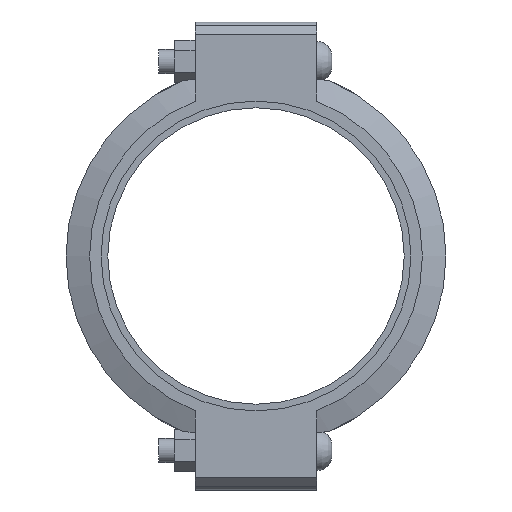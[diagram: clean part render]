
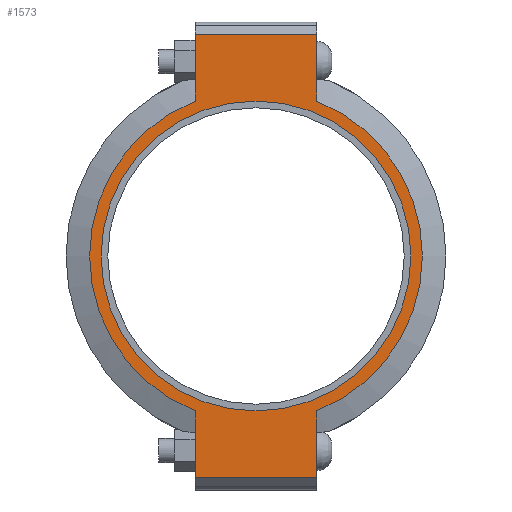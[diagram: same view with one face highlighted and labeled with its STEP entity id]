
A CAD part, left-side view. The second image highlights one B-rep face of the part: STEP entity #1573.
In plain terms, the highlighted planar face has unit normal (-1, 0, 0) as drawn and (0, 0, 1) by its records, which use the part's own axes.
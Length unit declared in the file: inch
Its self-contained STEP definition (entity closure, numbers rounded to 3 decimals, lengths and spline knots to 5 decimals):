
#144=LINE('',#2717,#233);
#155=LINE('',#2768,#244);
#161=LINE('',#2794,#250);
#163=LINE('',#2797,#252);
#164=LINE('',#2802,#253);
#165=LINE('',#2803,#254);
#233=VECTOR('',#2221,0.3937);
#244=VECTOR('',#2252,0.3937);
#250=VECTOR('',#2270,0.3937);
#252=VECTOR('',#2274,0.3937);
#253=VECTOR('',#2279,0.3937);
#254=VECTOR('',#2280,0.3937);
#316=FACE_BOUND('',#493,.T.);
#384=FACE_OUTER_BOUND('',#492,.T.);
#492=EDGE_LOOP('',(#1268,#1269,#1270,#1271,#1272,#1273,#1274,#1275));
#493=EDGE_LOOP('',(#1276));
#575=CIRCLE('',#1801,6.375);
#599=CIRCLE('',#1853,6.84375);
#600=CIRCLE('',#1854,6.84375);
#671=VERTEX_POINT('',#2543);
#712=VERTEX_POINT('',#2714);
#713=VERTEX_POINT('',#2716);
#730=VERTEX_POINT('',#2763);
#731=VERTEX_POINT('',#2767);
#738=VERTEX_POINT('',#2789);
#739=VERTEX_POINT('',#2793);
#740=VERTEX_POINT('',#2799);
#741=VERTEX_POINT('',#2801);
#835=EDGE_CURVE('',#671,#671,#575,.T.);
#892=EDGE_CURVE('',#713,#712,#144,.T.);
#913=EDGE_CURVE('',#731,#730,#155,.T.);
#924=EDGE_CURVE('',#739,#738,#161,.T.);
#926=EDGE_CURVE('',#739,#712,#163,.T.);
#927=EDGE_CURVE('',#738,#740,#599,.T.);
#928=EDGE_CURVE('',#740,#741,#164,.T.);
#929=EDGE_CURVE('',#731,#741,#165,.T.);
#930=EDGE_CURVE('',#730,#713,#600,.T.);
#1268=ORIENTED_EDGE('',*,*,#926,.F.);
#1269=ORIENTED_EDGE('',*,*,#924,.T.);
#1270=ORIENTED_EDGE('',*,*,#927,.T.);
#1271=ORIENTED_EDGE('',*,*,#928,.T.);
#1272=ORIENTED_EDGE('',*,*,#929,.F.);
#1273=ORIENTED_EDGE('',*,*,#913,.T.);
#1274=ORIENTED_EDGE('',*,*,#930,.T.);
#1275=ORIENTED_EDGE('',*,*,#892,.T.);
#1276=ORIENTED_EDGE('',*,*,#835,.T.);
#1413=PLANE('',#1852);
#1573=ADVANCED_FACE('',(#384,#316),#1413,.T.);
#1801=AXIS2_PLACEMENT_3D('',#2545,#2111,#2112);
#1852=AXIS2_PLACEMENT_3D('',#2798,#2275,#2276);
#1853=AXIS2_PLACEMENT_3D('',#2800,#2277,#2278);
#1854=AXIS2_PLACEMENT_3D('',#2804,#2281,#2282);
#2111=DIRECTION('center_axis',(0.,0.,-1.));
#2112=DIRECTION('ref_axis',(-1.,0.,0.));
#2221=DIRECTION('',(-1.,0.,0.));
#2252=DIRECTION('',(-1.,0.,0.));
#2270=DIRECTION('',(1.,0.,0.));
#2274=DIRECTION('',(0.,1.,0.));
#2275=DIRECTION('center_axis',(0.,0.,1.));
#2276=DIRECTION('ref_axis',(1.,0.,0.));
#2277=DIRECTION('center_axis',(0.,0.,1.));
#2278=DIRECTION('ref_axis',(-1.,0.,0.));
#2279=DIRECTION('',(1.,0.,0.));
#2280=DIRECTION('',(0.,-1.,0.));
#2281=DIRECTION('center_axis',(0.,0.,1.));
#2282=DIRECTION('ref_axis',(-1.,0.,0.));
#2543=CARTESIAN_POINT('',(6.375,0.,1.315));
#2545=CARTESIAN_POINT('Origin',(0.,0.,1.315));
#2714=CARTESIAN_POINT('',(-9.125,2.5,1.315));
#2716=CARTESIAN_POINT('',(-6.37079,2.5,1.315));
#2717=CARTESIAN_POINT('',(9.625,2.5,1.315));
#2763=CARTESIAN_POINT('',(6.37079,2.5,1.315));
#2767=CARTESIAN_POINT('',(9.125,2.5,1.315));
#2768=CARTESIAN_POINT('',(9.625,2.5,1.315));
#2789=CARTESIAN_POINT('',(-6.37079,-2.5,1.315));
#2793=CARTESIAN_POINT('',(-9.125,-2.5,1.315));
#2794=CARTESIAN_POINT('',(-9.625,-2.5,1.315));
#2797=CARTESIAN_POINT('',(-9.125,1.25,1.315));
#2798=CARTESIAN_POINT('Origin',(0.,0.,
1.315));
#2799=CARTESIAN_POINT('',(6.37079,-2.5,1.315));
#2800=CARTESIAN_POINT('Origin',(0.,0.,1.315));
#2801=CARTESIAN_POINT('',(9.125,-2.5,1.315));
#2802=CARTESIAN_POINT('',(-9.625,-2.5,1.315));
#2803=CARTESIAN_POINT('',(9.125,-1.25,1.315));
#2804=CARTESIAN_POINT('Origin',(0.,0.,1.315));
